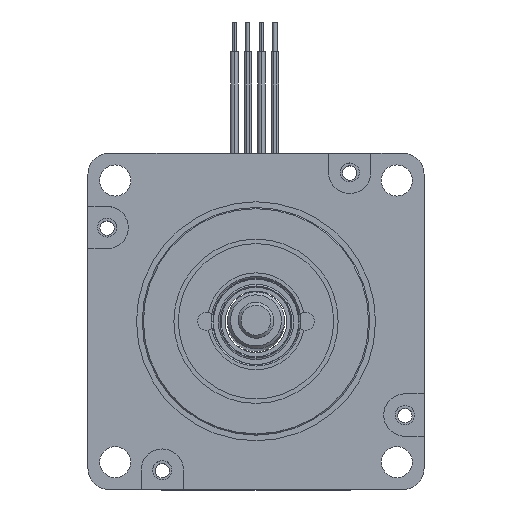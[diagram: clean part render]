
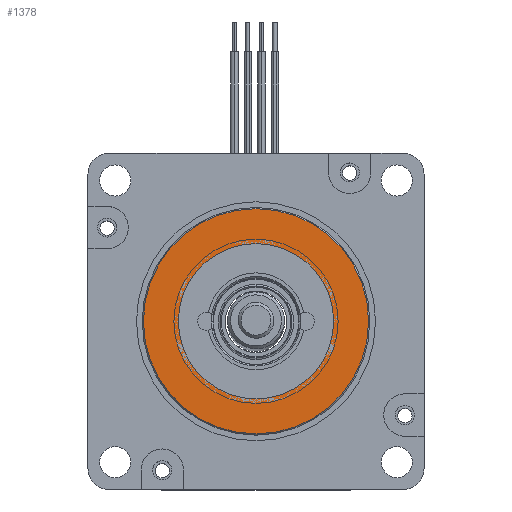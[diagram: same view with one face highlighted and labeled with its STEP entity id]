
A CAD part, top view. The second image highlights one B-rep face of the part: STEP entity #1378.
In plain terms, the highlighted planar face has unit normal (0, 0, 1).
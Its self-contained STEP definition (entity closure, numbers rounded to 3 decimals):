
#1378 = ADVANCED_FACE ( 'NONE', ( #11599, #11352 ), #10408, .T. ) ;
#2071 = VERTEX_POINT ( 'NONE', #5649 ) ;
#2505 = VERTEX_POINT ( 'NONE', #6006 ) ;
#3718 = DIRECTION ( 'NONE',  ( 0., 0., 1. ) ) ;
#3835 = DIRECTION ( 'NONE',  ( 1., 0., 0. ) ) ;
#4187 = CARTESIAN_POINT ( 'NONE',  ( -124.426, 0.53, 106.847 ) ) ;
#5649 = CARTESIAN_POINT ( 'NONE',  ( -111.426, 0.53, 106.847 ) ) ;
#6006 = CARTESIAN_POINT ( 'NONE',  ( -105.576, 0.53, 106.847 ) ) ;
#6555 = ORIENTED_EDGE ( 'NONE', *, *, #11193, .F. ) ;
#6828 = ORIENTED_EDGE ( 'NONE', *, *, #11304, .T. ) ;
#6945 = ORIENTED_EDGE ( 'NONE', *, *, #11184, .T. ) ;
#7305 = EDGE_LOOP ( 'NONE', ( #6828, #6945 ) ) ;
#7440 = ORIENTED_EDGE ( 'NONE', *, *, #10730, .F. ) ;
#7492 = EDGE_LOOP ( 'NONE', ( #6555, #7440 ) ) ;
#7702 = CARTESIAN_POINT ( 'NONE',  ( -143.276, 0.53, 106.847 ) ) ;
#8120 = CARTESIAN_POINT ( 'NONE',  ( -137.426, 0.53, 106.847 ) ) ;
#8673 = VERTEX_POINT ( 'NONE', #8120 ) ;
#8719 = VERTEX_POINT ( 'NONE', #7702 ) ;
#9017 = AXIS2_PLACEMENT_3D ( 'NONE', #4187, #3718, #3835 ) ;
#9480 = AXIS2_PLACEMENT_3D ( 'NONE', #12193, #12166, #12163 ) ;
#10405 = DIRECTION ( 'NONE',  ( 1., 0., 0. ) ) ;
#10408 = PLANE ( 'NONE',  #11470 ) ;
#10409 = CARTESIAN_POINT ( 'NONE',  ( -124.426, 0.53, 106.847 ) ) ;
#10410 = DIRECTION ( 'NONE',  ( 0., 0., 1. ) ) ;
#10730 = EDGE_CURVE ( 'NONE', #8673, #2071, #13757, .T. ) ;
#11184 = EDGE_CURVE ( 'NONE', #2505, #8719, #13990, .T. ) ;
#11193 = EDGE_CURVE ( 'NONE', #2071, #8673, #13967, .T. ) ;
#11304 = EDGE_CURVE ( 'NONE', #8719, #2505, #13809, .T. ) ;
#11352 = FACE_BOUND ( 'NONE', #7492, .T. ) ;
#11470 = AXIS2_PLACEMENT_3D ( 'NONE', #10409, #10410, #10405 ) ;
#11599 = FACE_OUTER_BOUND ( 'NONE', #7305, .T. ) ;
#12163 = DIRECTION ( 'NONE',  ( 1., 0., 0. ) ) ;
#12166 = DIRECTION ( 'NONE',  ( 0., 0., 1. ) ) ;
#12193 = CARTESIAN_POINT ( 'NONE',  ( -124.426, 0.53, 106.847 ) ) ;
#12560 = DIRECTION ( 'NONE',  ( 0., 0., 1. ) ) ;
#12900 = DIRECTION ( 'NONE',  ( 1., 0., 0. ) ) ;
#12906 = CARTESIAN_POINT ( 'NONE',  ( -124.426, 0.53, 106.847 ) ) ;
#12997 = DIRECTION ( 'NONE',  ( 1., 0., 0. ) ) ;
#13023 = DIRECTION ( 'NONE',  ( 0., 0., 1. ) ) ;
#13278 = CARTESIAN_POINT ( 'NONE',  ( -124.426, 0.53, 106.847 ) ) ;
#13567 = AXIS2_PLACEMENT_3D ( 'NONE', #13278, #13023, #12997 ) ;
#13571 = AXIS2_PLACEMENT_3D ( 'NONE', #12906, #12560, #12900 ) ;
#13757 = CIRCLE ( 'NONE', #9017, 13. ) ;
#13809 = CIRCLE ( 'NONE', #9480, 18.85 ) ;
#13967 = CIRCLE ( 'NONE', #13571, 13. ) ;
#13990 = CIRCLE ( 'NONE', #13567, 18.85 ) ;
